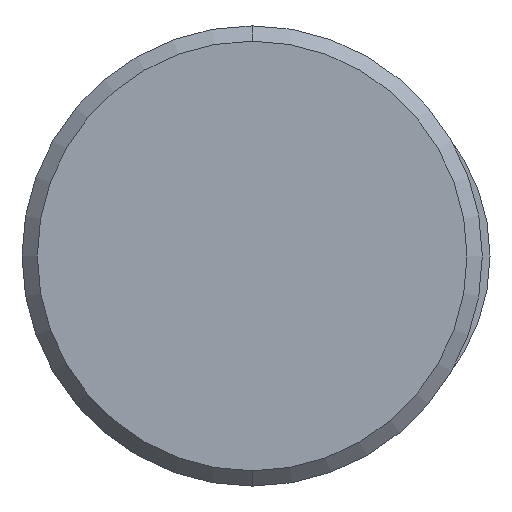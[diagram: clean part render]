
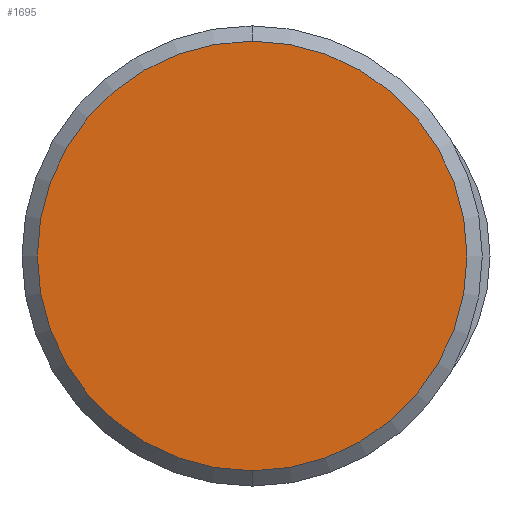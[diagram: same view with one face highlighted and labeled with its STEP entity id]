
A CAD part, left-side view. The second image highlights one B-rep face of the part: STEP entity #1695.
In plain terms, the highlighted planar face has unit normal (-1, 0, 0).
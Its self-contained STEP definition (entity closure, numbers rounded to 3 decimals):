
#1627=CARTESIAN_POINT('Vertex',(0.,0.,-28.)) ;
#1630=CARTESIAN_POINT('Axis2P3D Location',(0.,0.,0.)) ;
#1634=CARTESIAN_POINT('Vertex',(0.,28.,0.)) ;
#1637=CARTESIAN_POINT('Axis2P3D Location',(0.,0.,0.)) ;
#1641=CARTESIAN_POINT('Vertex',(0.,0.,28.)) ;
#1663=CARTESIAN_POINT('Axis2P3D Location',(0.,0.,0.)) ;
#1667=CARTESIAN_POINT('Vertex',(0.,-28.,0.)) ;
#1670=CARTESIAN_POINT('Axis2P3D Location',(0.,0.,0.)) ;
#1684=CARTESIAN_POINT('Axis2P3D Location',(0.,0.,0.)) ;
#1631=DIRECTION('Axis2P3D Direction',(1.,0.,-0.)) ;
#1638=DIRECTION('Axis2P3D Direction',(1.,0.,-0.)) ;
#1664=DIRECTION('Axis2P3D Direction',(1.,0.,-0.)) ;
#1671=DIRECTION('Axis2P3D Direction',(1.,0.,-0.)) ;
#1685=DIRECTION('Axis2P3D Direction',(1.,0.,-0.)) ;
#1686=DIRECTION('Axis2P3D XDirection',(-0.,0.,-1.)) ;
#1632=AXIS2_PLACEMENT_3D('Circle Axis2P3D',#1630,#1631,$) ;
#1639=AXIS2_PLACEMENT_3D('Circle Axis2P3D',#1637,#1638,$) ;
#1665=AXIS2_PLACEMENT_3D('Circle Axis2P3D',#1663,#1664,$) ;
#1672=AXIS2_PLACEMENT_3D('Circle Axis2P3D',#1670,#1671,$) ;
#1687=AXIS2_PLACEMENT_3D('Plane Axis2P3D',#1684,#1685,#1686) ;
#1690=ORIENTED_EDGE('',*,*,#1636,.F.) ;
#1691=ORIENTED_EDGE('',*,*,#1674,.F.) ;
#1692=ORIENTED_EDGE('',*,*,#1669,.F.) ;
#1693=ORIENTED_EDGE('',*,*,#1643,.F.) ;
#1695=ADVANCED_FACE('395A-050-273',(#1694),#1688,.F.) ;
#1633=CIRCLE('generated circle',#1632,28.) ;
#1640=CIRCLE('generated circle',#1639,28.) ;
#1666=CIRCLE('generated circle',#1665,28.) ;
#1673=CIRCLE('generated circle',#1672,28.) ;
#1636=EDGE_CURVE('',#1628,#1635,#1633,.T.) ;
#1643=EDGE_CURVE('',#1635,#1642,#1640,.T.) ;
#1669=EDGE_CURVE('',#1642,#1668,#1666,.T.) ;
#1674=EDGE_CURVE('',#1668,#1628,#1673,.T.) ;
#1689=EDGE_LOOP('',(#1690,#1691,#1692,#1693)) ;
#1694=FACE_OUTER_BOUND('',#1689,.T.) ;
#1688=PLANE('Plane',#1687) ;
#1628=VERTEX_POINT('',#1627) ;
#1635=VERTEX_POINT('',#1634) ;
#1642=VERTEX_POINT('',#1641) ;
#1668=VERTEX_POINT('',#1667) ;
